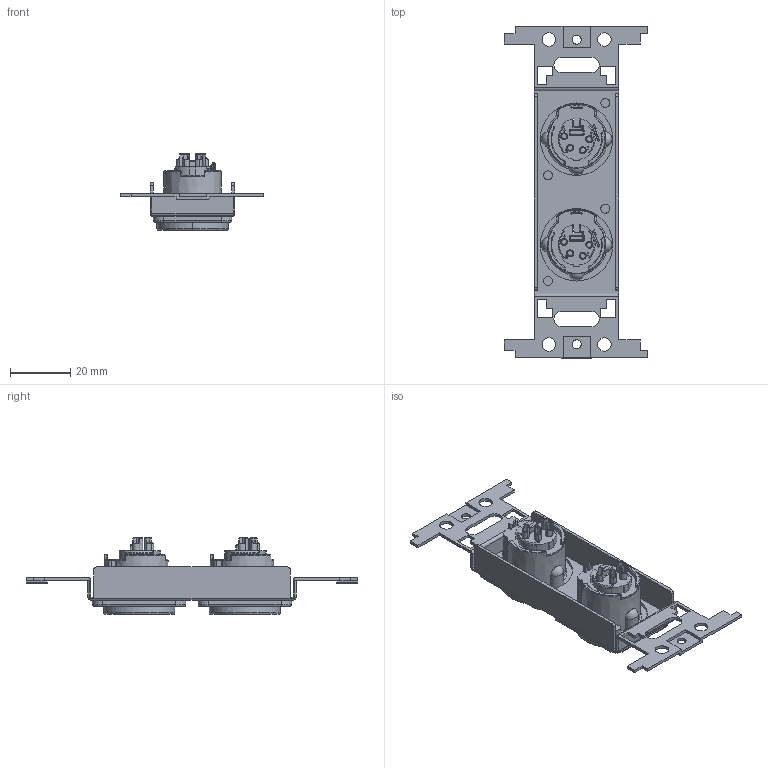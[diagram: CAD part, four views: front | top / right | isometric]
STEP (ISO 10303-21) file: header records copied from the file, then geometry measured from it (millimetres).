
FILE_DESCRIPTION(('FreeCAD Model'),'2;1');
FILE_NAME('Open CASCADE Shape Model','2026-08-27T13:48:27',(''),(''), 'Open CASCADE STEP processor 7.8','FreeCAD','Unknown');
FILE_SCHEMA(('AUTOMOTIVE_DESIGN { 1 0 10303 214 1 1 1 1 }'));
Length unit declared in the file: millimetre
Products named in the file (8): CMW_2NC4MD_X; M3x8-Screw_1; M3x8-Screw_2; P-200791; M3x8-Screw_3; M3x8-Screw_4; NC4MD-LX-X_1; NC4MD-LX-X_2
Assembly tree (7 placements, depth 2):
  CMW_2NC4MD_X
    M3x8-Screw_1
    M3x8-Screw_2
    P-200791
    M3x8-Screw_3
    M3x8-Screw_4
    NC4MD-LX-X_1
    NC4MD-LX-X_2
Bounding box: 47.6 x 110 x 25.4 mm (x, y, z)
Volume: 12309.7 mm3; surface area: 18117.9 mm2
Topology: 7 solids, 11 shells, 2148 faces, 5840 edges, 3782 vertices
Faces by surface type: plane 1540, cylinder 318, bspline 100, cone 96, torus 52, sphere 42
Full cylindrical faces by diameter (mm): 2 x4, 3 x6, 4.5 x4, 5.3 x4, 24 x2
Entity records: 71819 total; most frequent: CARTESIAN_POINT 17945, ORIENTED_EDGE 11624, DIRECTION 10355, EDGE_CURVE 5810, LINE 4419, VECTOR 4419, VERTEX_POINT 3782, AXIS2_PLACEMENT_3D 2968
